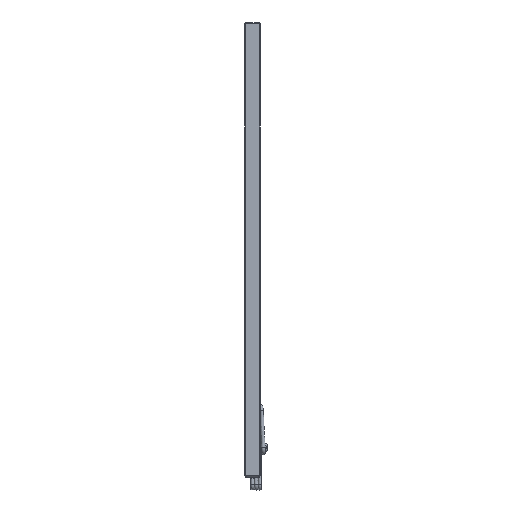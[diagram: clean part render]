
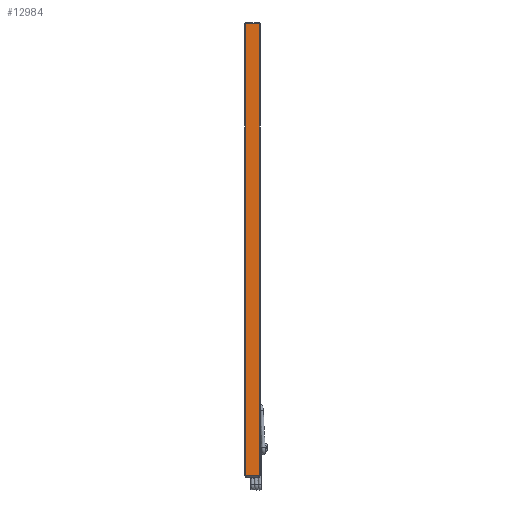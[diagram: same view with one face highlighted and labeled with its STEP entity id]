
A CAD part, front view. The second image highlights one B-rep face of the part: STEP entity #12984.
In plain terms, the highlighted planar face has unit normal (0, -1, 0).
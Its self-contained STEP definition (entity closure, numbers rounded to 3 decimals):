
#1656=FACE_OUTER_BOUND('',#2400,.T.);
#2400=EDGE_LOOP('',(#9178,#9179,#9180,#9181));
#3301=LINE('',#18705,#4466);
#3303=LINE('',#18711,#4468);
#3315=LINE('',#18761,#4480);
#3316=LINE('',#18762,#4481);
#4466=VECTOR('',#15384,10.);
#4468=VECTOR('',#15390,10.);
#4480=VECTOR('',#15430,10.);
#4481=VECTOR('',#15431,10.);
#5602=VERTEX_POINT('',#18702);
#5603=VERTEX_POINT('',#18704);
#5605=VERTEX_POINT('',#18710);
#5629=VERTEX_POINT('',#18760);
#6966=EDGE_CURVE('',#5602,#5603,#3301,.T.);
#6969=EDGE_CURVE('',#5605,#5603,#3303,.T.);
#6994=EDGE_CURVE('',#5602,#5629,#3315,.T.);
#6995=EDGE_CURVE('',#5605,#5629,#3316,.T.);
#9178=ORIENTED_EDGE('',*,*,#6966,.F.);
#9179=ORIENTED_EDGE('',*,*,#6994,.T.);
#9180=ORIENTED_EDGE('',*,*,#6995,.F.);
#9181=ORIENTED_EDGE('',*,*,#6969,.T.);
#12589=PLANE('',#13999);
#12984=ADVANCED_FACE('',(#1656),#12589,.T.);
#13999=AXIS2_PLACEMENT_3D('',#18759,#15428,#15429);
#15384=DIRECTION('',(0.,0.,-1.));
#15390=DIRECTION('',(1.,0.,0.));
#15428=DIRECTION('center_axis',(0.,-1.,0.));
#15429=DIRECTION('ref_axis',(0.,0.,-1.));
#15430=DIRECTION('',(-1.,0.,0.));
#15431=DIRECTION('',(0.,0.,1.));
#18702=CARTESIAN_POINT('',(18.421,0.,1219.2));
#18704=CARTESIAN_POINT('',(18.421,0.,0.));
#18705=CARTESIAN_POINT('',(18.421,0.,0.));
#18710=CARTESIAN_POINT('',(-18.421,0.,0.));
#18711=CARTESIAN_POINT('',(-18.735,0.,0.));
#18759=CARTESIAN_POINT('Origin',(18.735,0.,0.));
#18760=CARTESIAN_POINT('',(-18.421,0.,1219.2));
#18761=CARTESIAN_POINT('',(-18.735,0.,1219.2));
#18762=CARTESIAN_POINT('',(-18.421,0.,0.));
